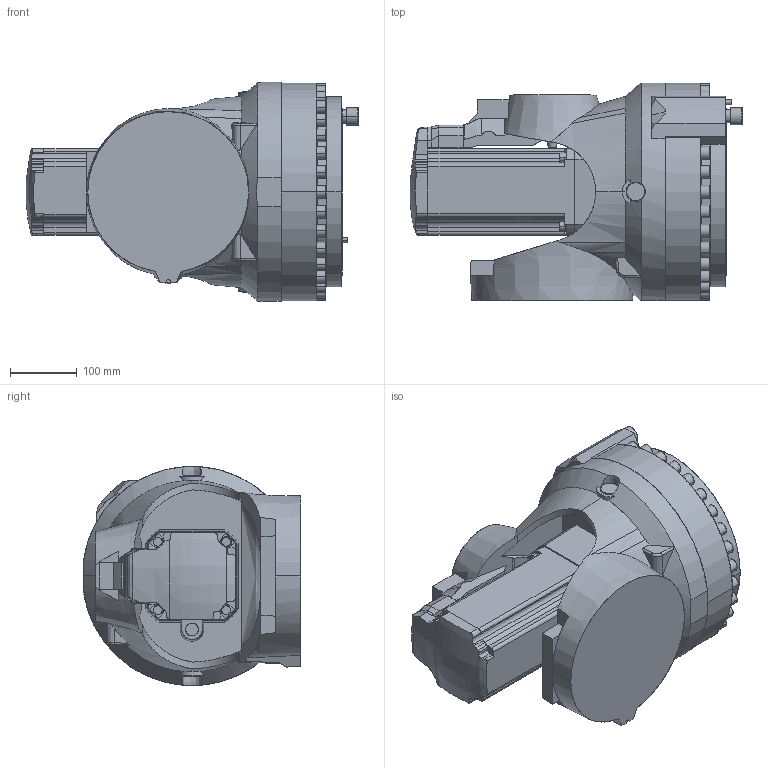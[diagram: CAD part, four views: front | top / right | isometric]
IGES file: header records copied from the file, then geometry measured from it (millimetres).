
Start section: SolidWorks IGES file using analytic representation for surfaces
Global section: file name: B:\DM\Robotics\SEROP_PROJ\Product Development\DevelopmentProjects\HD\3_Design PRMD\4_Struktur SAP o CAD\Lättmodeller\IRB8700_550-420\IRB8700_550-420_IRC5_IGES_j\IRB8700_550-420_IRC5_rev00_LINK5_CAD.IGS; native system: SolidWorks 2014; preprocessor: SolidWorks 2014; author: sepehak; date: 150604.100613; units: millimetre
Bounding box: 496.8 x 325 x 328 mm (x, y, z)
Surface area: 793860.8 mm2 (no closed solid volume)
Topology: 0 solids, 0 shells, 493 faces, 8508 edges, 8506 vertices
Faces by surface type: bspline 292, revolution 201
